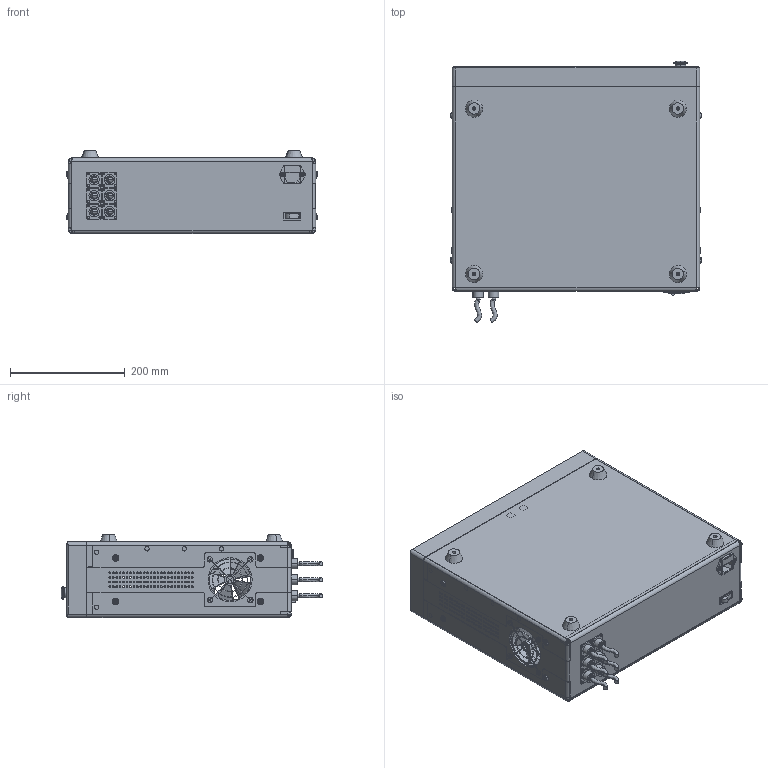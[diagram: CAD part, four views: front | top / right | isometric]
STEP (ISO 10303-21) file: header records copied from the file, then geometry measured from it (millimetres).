
FILE_DESCRIPTION (( 'STEP AP203' ), '1' );
FILE_NAME ('TMC-NET-HXP-SS(AP214).STEP', '2023-04-21T09:18:09', ( '' ), ( '' ), 'SwSTEP 2.0', 'SolidWorks 2020', '' );
FILE_SCHEMA (( 'CONFIG_CONTROL_DESIGN' ));
Products named in the file (1): TMC-NET-HXP-SS(AP214)
Bounding box: 439.55 x 457.03 x 145 mm (x, y, z)
Surface area: 1150665.1 mm2 (no closed solid volume)
Topology: 0 solids, 65 shells, 1450 faces, 6430 edges, 4939 vertices
Faces by surface type: cylinder 816, plane 449, cone 60, bspline 57, torus 50, sphere 18
Entity records: 75947 total; most frequent: CARTESIAN_POINT 24624, DIRECTION 10613, ORIENTED_EDGE 9169, EDGE_CURVE 6428, VERTEX_POINT 4939, AXIS2_PLACEMENT_3D 3703, VECTOR 3207, LINE 3207
